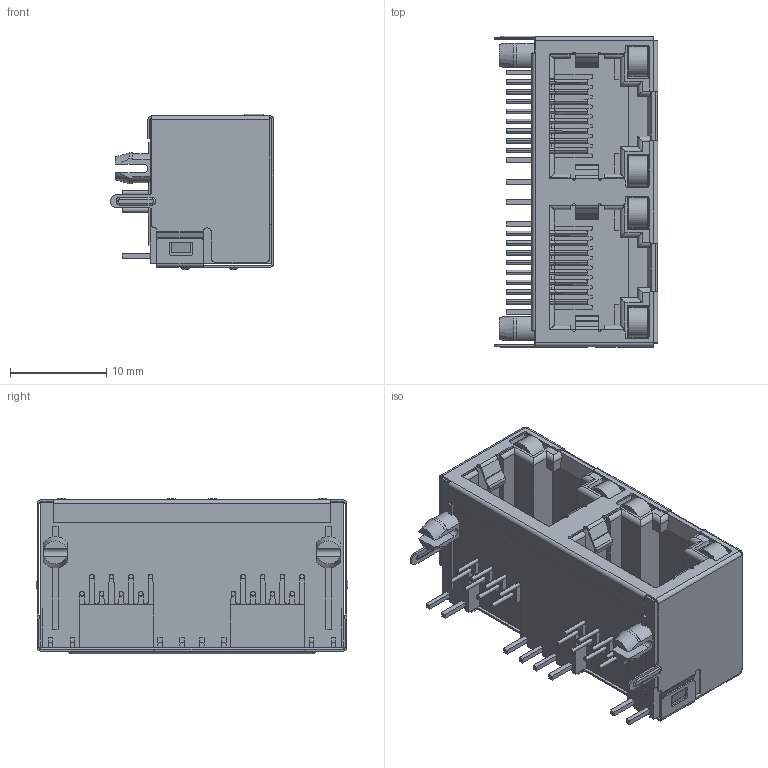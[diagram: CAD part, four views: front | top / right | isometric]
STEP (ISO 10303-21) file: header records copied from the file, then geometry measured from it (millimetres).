
FILE_DESCRIPTION((''),'2;1');
FILE_NAME('56S-LED-1X2-8P8C-E0001_ASM','2021-04-15T17:08:37',('CSCE02'),(''),'CREO PARAMETRIC BY PTC INC, 2020281','CREO PARAMETRIC BY PTC INC, 2020281','');
FILE_SCHEMA(('CONFIG_CONTROL_DESIGN','GEOMETRIC_VALIDATION_PROPERTIES_MIM'));
Length unit declared in the file: millimetre
Products named in the file (4): 56LED-1X2-8P8C-D0; 56-LED0; 56-LED-1X2-000; 56S-LED-1X2-8P8C-E0001_ASM
Assembly tree (4 placements, depth 2):
  56S-LED-1X2-8P8C-E0001_ASM
    56LED-1X2-8P8C-D0
    56-LED0  x2
    56-LED-1X2-000
Bounding box: 17.02 x 32.46 x 16.22 mm (x, y, z)
Volume: 3180.4 mm3; surface area: 8875.6 mm2
Topology: 22 solids, 22 shells, 1534 faces, 4014 edges, 2506 vertices
Faces by surface type: plane 1026, cylinder 400, torus 92, bspline 12, cone 4
Entity records: 51732 total; most frequent: CARTESIAN_POINT 8775, ORIENTED_EDGE 7764, DIRECTION 7548, EDGE_CURVE 3882, VECTOR 2924, LINE 2924, VERTEX_POINT 2418, AXIS2_PLACEMENT_3D 2312
